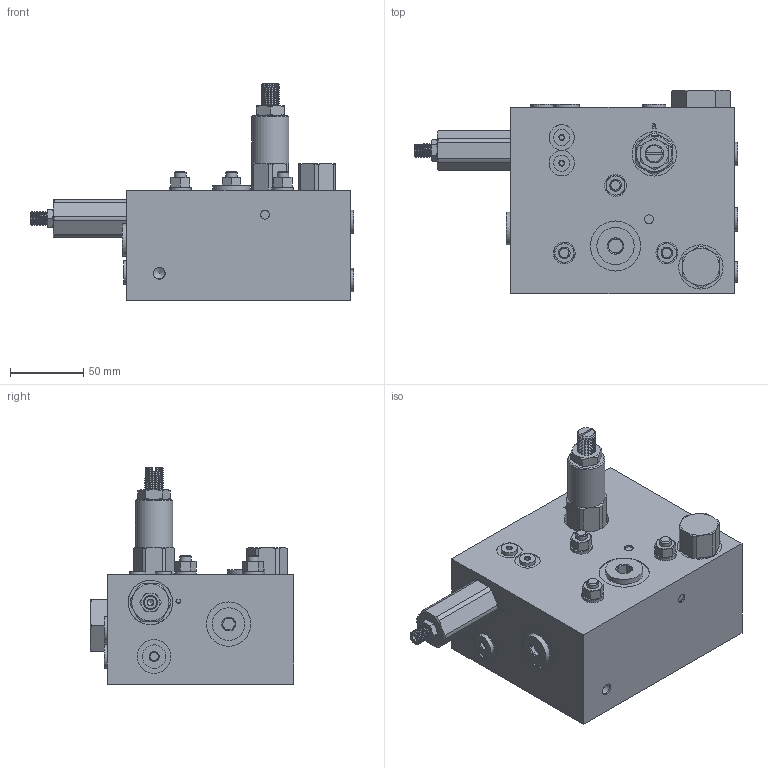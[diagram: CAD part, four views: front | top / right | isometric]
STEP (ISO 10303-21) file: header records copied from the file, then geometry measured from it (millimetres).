
FILE_DESCRIPTION(/* description */ ('INLET ASSY, FIX DISPL SHELL','CAx-IF Rec.Pracs.---Representation and Presentation of Product Manufacturing Information (PMI)---3.8---2014-02-18'),/* implementation_level */ '2;1');
FILE_NAME(/* name */ 'P:\RefDataValves\Documentation\NewWebModels_5-17\SVIC2F_Shell.stp',/* time_stamp */ '2017-05-10T14:01:50-05:00',/* author */ ('PetersW'),/* organization */ ('Prince Manufacturing Corporation'),/* preprocessor_version */ 'ST-DEVELOPER v16.1',/* originating_system */ 'Autodesk Inventor 2016',/* authorisation */ '');
FILE_SCHEMA (('AP242_MANAGED_MODEL_BASED_3D_ENGINEERING_MIM_LF { 1 0 10303 442 1 1 4 }'));
Length unit declared in the file: inch
Products named in the file (1): SVIC2x_Shell
Bounding box: 220.01 x 138.81 x 147.26 mm (x, y, z)
Volume: 1521164.1 mm3; surface area: 109301.9 mm2
Topology: 1 solids, 35 shells, 893 faces, 2171 edges, 1399 vertices
Faces by surface type: plane 473, cone 209, cylinder 99, bspline 66, torus 46
Full cylindrical faces by diameter (mm): 3.175 x2, 3.962 x1, 5.563 x2, 6.045 x3, 6.35 x6, 7.798 x1, 7.925 x3, 7.95 x1, 8.331 x6, 9.525 x1, 10.77 x2, 10.846 x4, 11.1 x2, 12.243 x2, 13.495 x2, 14.3 x2, 15.875 x6, 16.942 x2, 17.323 x2, 17.45 x1, 18.237 x1, 19.621 x2, 19.634 x2, 21.031 x1, 21.285 x1, 21.666 x1, 22.225 x3, 23.012 x5, 24.613 x1, 25.4 x2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
Entity records: 25146 total; most frequent: CARTESIAN_POINT 5945, ORIENTED_EDGE 3746, DIRECTION 3457, EDGE_CURVE 1858, AXIS2_PLACEMENT_3D 1320, VERTEX_POINT 1301, EDGE_LOOP 1225, FACE_OUTER_BOUND 893
